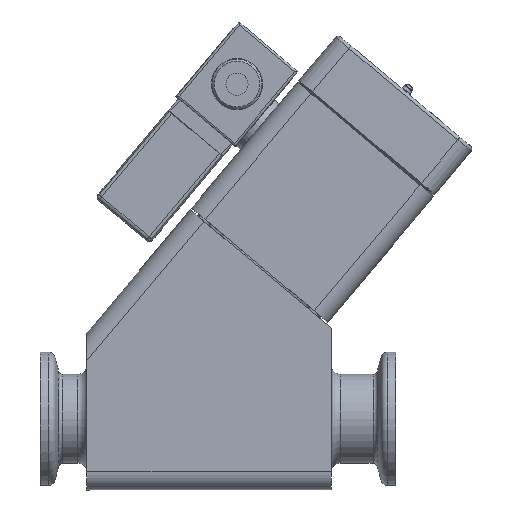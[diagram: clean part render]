
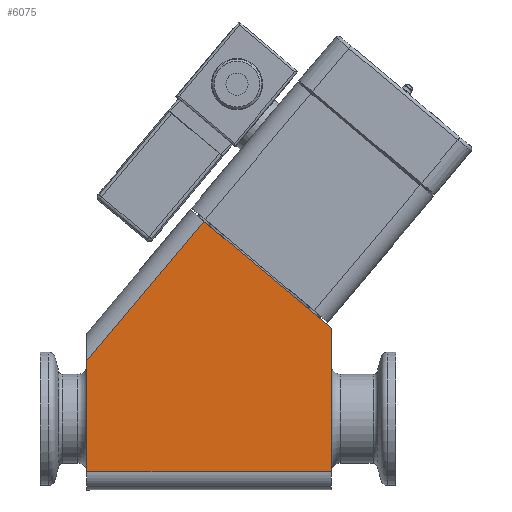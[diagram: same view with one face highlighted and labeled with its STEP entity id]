
A CAD part, top view. The second image highlights one B-rep face of the part: STEP entity #6075.
In plain terms, the highlighted planar face has unit normal (0, 0, 1).
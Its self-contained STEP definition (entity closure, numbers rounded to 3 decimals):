
#3489=FACE_OUTER_BOUND('',#7772,.T.);
#3945=LINE('',#19697,#4834);
#3952=LINE('',#19720,#4841);
#3953=LINE('',#19723,#4842);
#3954=LINE('',#19724,#4843);
#3955=LINE('',#19726,#4844);
#4834=VECTOR('',#16196,1.);
#4841=VECTOR('',#16215,1.);
#4842=VECTOR('',#16216,1.);
#4843=VECTOR('',#16217,1.);
#4844=VECTOR('',#16218,1.);
#6075=ADVANCED_FACE('',(#3489),#6682,.F.);
#6682=PLANE('',#14757);
#7772=EDGE_LOOP('',(#8847,#8848,#8849,#8850,#8851));
#8847=ORIENTED_EDGE('',*,*,#12725,.F.);
#8848=ORIENTED_EDGE('',*,*,#12726,.T.);
#8849=ORIENTED_EDGE('',*,*,#12714,.F.);
#8850=ORIENTED_EDGE('',*,*,#12727,.T.);
#8851=ORIENTED_EDGE('',*,*,#12728,.F.);
#11622=VERTEX_POINT('',#19698);
#11623=VERTEX_POINT('',#19699);
#11632=VERTEX_POINT('',#19721);
#11633=VERTEX_POINT('',#19722);
#11634=VERTEX_POINT('',#19725);
#12714=EDGE_CURVE('',#11622,#11623,#3945,.T.);
#12725=EDGE_CURVE('',#11632,#11633,#3952,.T.);
#12726=EDGE_CURVE('',#11632,#11623,#3953,.T.);
#12727=EDGE_CURVE('',#11622,#11634,#3954,.T.);
#12728=EDGE_CURVE('',#11633,#11634,#3955,.T.);
#14757=AXIS2_PLACEMENT_3D('',#19727,#16219,#16220);
#16196=DIRECTION('',(0.,1.,0.));
#16215=DIRECTION('',(0.766,-0.643,0.));
#16216=DIRECTION('',(-0.643,-0.766,0.));
#16217=DIRECTION('',(1.,0.,0.));
#16218=DIRECTION('',(0.,-1.,0.));
#16219=DIRECTION('',(0.,0.,-1.));
#16220=DIRECTION('',(-1.,0.,0.));
#19697=CARTESIAN_POINT('',(0.,0.,20.));
#19698=CARTESIAN_POINT('',(0.,4.,20.));
#19699=CARTESIAN_POINT('',(0.,29.015,20.));
#19720=CARTESIAN_POINT('',(40.622,48.412,20.));
#19721=CARTESIAN_POINT('',(26.335,60.4,20.));
#19722=CARTESIAN_POINT('',(55.,36.347,20.));
#19723=CARTESIAN_POINT('',(3.064,32.667,20.));
#19724=CARTESIAN_POINT('',(55.,4.,20.));
#19725=CARTESIAN_POINT('',(55.,4.,20.));
#19726=CARTESIAN_POINT('',(55.,37.,20.));
#19727=CARTESIAN_POINT('',(0.,0.,
20.));
